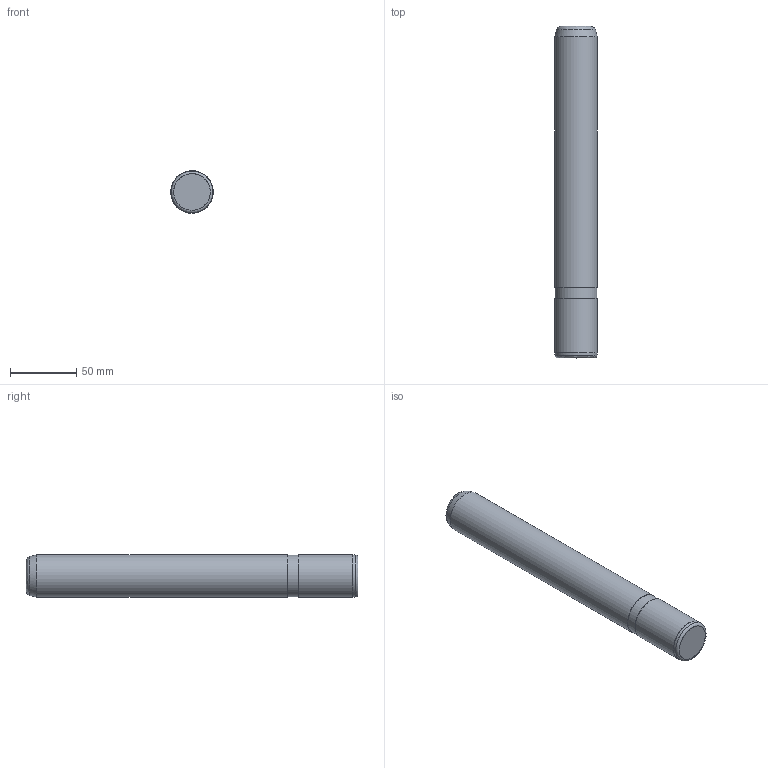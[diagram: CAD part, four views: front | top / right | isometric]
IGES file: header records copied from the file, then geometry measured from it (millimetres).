
Start section: Missler Software BP 521, 31674 Labege Cedex, France Tel   : +33 (0)5 61 00 03 00 Fax   : +33 (0)5 61 00 03 03 Email : sup.topsolid@topsolid.com
Global section: file name: D:\Cuma\26 04 2010\D15g\D15_32250.igs; native system: TopSolid v605250 Missler Software; preprocessor: IGES preprocessor v100000; date: 030225.171733; units: millimetre
Bounding box: 32 x 250 x 32 mm (x, y, z)
Surface area: 26407.5 mm2 (no closed solid volume)
Topology: 0 solids, 0 shells, 11 faces, 216 edges, 210 vertices
Faces by surface type: bspline 11
